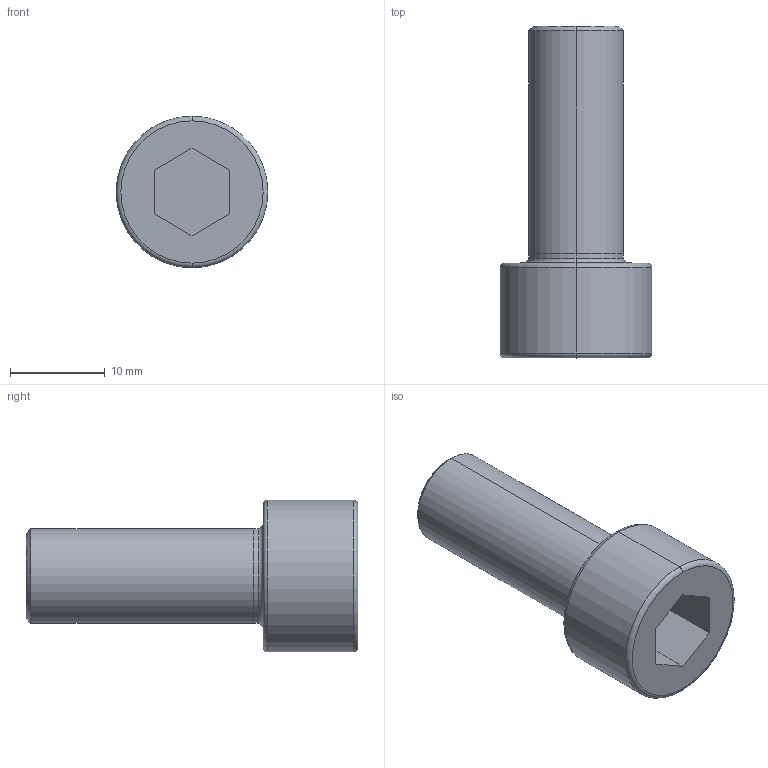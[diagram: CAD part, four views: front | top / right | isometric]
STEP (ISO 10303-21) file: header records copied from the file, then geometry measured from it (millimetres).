
FILE_DESCRIPTION (( 'STEP AP214' ), '1' );
FILE_NAME ('M_10X025.STEP', '2016-03-08T00:40:08', ( '' ), ( '' ), 'SwSTEP 2.0', 'SolidWorks 2014', '' );
FILE_SCHEMA (( 'AUTOMOTIVE_DESIGN' ));
Length unit declared in the file: millimetre
Products named in the file (1): M_10X025
Bounding box: 16 x 35 x 16 mm (x, y, z)
Volume: 3523.3 mm3; surface area: 1873.9 mm2
Topology: 1 solids, 1 shells, 25 faces, 52 edges, 32 vertices
Faces by surface type: plane 11, torus 6, cylinder 6, cone 2
Entity records: 746 total; most frequent: DIRECTION 130, CARTESIAN_POINT 110, ORIENTED_EDGE 104, AXIS2_PLACEMENT_3D 52, EDGE_CURVE 52, VERTEX_POINT 32, EDGE_LOOP 28, CIRCLE 26
